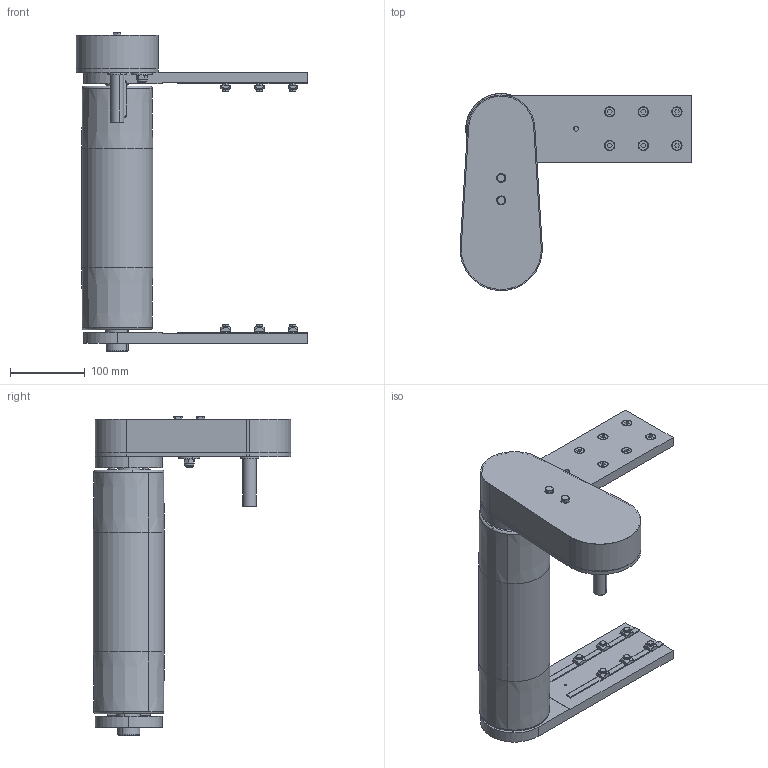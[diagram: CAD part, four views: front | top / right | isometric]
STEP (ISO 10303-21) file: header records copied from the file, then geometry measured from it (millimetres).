
FILE_DESCRIPTION (( 'STEP AP203' ), '1' );
FILE_NAME ('084.095.KTB.44.300.step', '2013-02-28T12:03:50', ( '' ), ( '' ), 'SwSTEP 2.0', 'SolidWorks 2011', '' );
FILE_SCHEMA (( 'CONFIG_CONTROL_DESIGN' ));
Length unit declared in the file: millimetre
Products named in the file (28): 084.095.KTB.44.300; Hex Screw GradeC_ALUSIC_ISO 4018 - M8 x 20-NS; Hex Screw GradeC_ALUSIC_ISO 4018 - M6 x 50-NS; ANELLI ELASTICI PER ESTERNI UNI 7435-75_Circlip DIN 471 - 30 x 1.5; CHIAVETTE_A 8x7x25 UNI 6604-69; CHIAVETTE_A 6x6x50 UNI 6604-69; Specchiatura084.302.000 DADI ALUSIC 13x13_084.302.004; 084.301.000 VITI ALUSIC_084.301.003; 084.302.000 DADI ALUSIC 13x13_084.302.004; 084.821.003; 084.810.006; Circlip for Shafts normal_din_Circlip DIN 471 - 8 x 0.8; Plain Washer XLarge Grade C_ALUSIC_Washer ISO 7094 - 8; Torque nut 01_ALUSIC_ISO 7040-M8-S; CUSCINETTI A SFERE_608-2RS; 084.810.008; 084.816.102_084.816.107<A macchina>; 084.813.004; 084.809.001; 084.821.002; 084.809.003; 084.813.002; 084.812.003; 084.802.019_084.802.019; 084.802.034_084.802.034; 084.808.002_084.808.002; 084.810.003; 084.808.003_084.808.003
Assembly tree (59 placements, depth 3):
  084.095.KTB.44.300
    084.809.001
    Hex Screw GradeC_ALUSIC_ISO 4018 - M8 x 20-NS  x4
    084.816.102_084.816.107<A macchina>
    Specchiatura084.302.000 DADI ALUSIC 13x13_084.302.004  x6
    084.301.000 VITI ALUSIC_084.301.003  x12
    084.302.000 DADI ALUSIC 13x13_084.302.004  x6
    084.821.003
    084.812.003
    Hex Screw GradeC_ALUSIC_ISO 4018 - M6 x 50-NS  x2
    084.810.006
      Torque nut 01_ALUSIC_ISO 7040-M8-S
      CUSCINETTI A SFERE_608-2RS  x3
      Plain Washer XLarge Grade C_ALUSIC_Washer ISO 7094 - 8
      084.810.008
      Circlip for Shafts normal_din_Circlip DIN 471 - 8 x 0.8
    084.802.019_084.802.019
    084.813.004
    084.810.003  x2
    ANELLI ELASTICI PER ESTERNI UNI 7435-75_Circlip DIN 471 - 30 x 1.5  x2
    CHIAVETTE_A 8x7x25 UNI 6604-69  x3
    084.821.002  x2
    084.809.003
    084.802.034_084.802.034
    084.808.002_084.808.002
    084.808.003_084.808.003
    CHIAVETTE_A 6x6x50 UNI 6604-69
    084.813.002
Bounding box: 310 x 263.87 x 427.88 mm (x, y, z)
Volume: 1868893.5 mm3; surface area: 799440 mm2
Topology: 63 solids, 64 shells, 2824 faces, 7303 edges, 4674 vertices
Faces by surface type: cylinder 1020, plane 856, cone 817, torus 122, sphere 9
Entity records: 54426 total; most frequent: CARTESIAN_POINT 9747, DIRECTION 9188, ORIENTED_EDGE 8292, EDGE_CURVE 4146, AXIS2_PLACEMENT_3D 3514, VERTEX_POINT 2669, LINE 2160, VECTOR 2160
